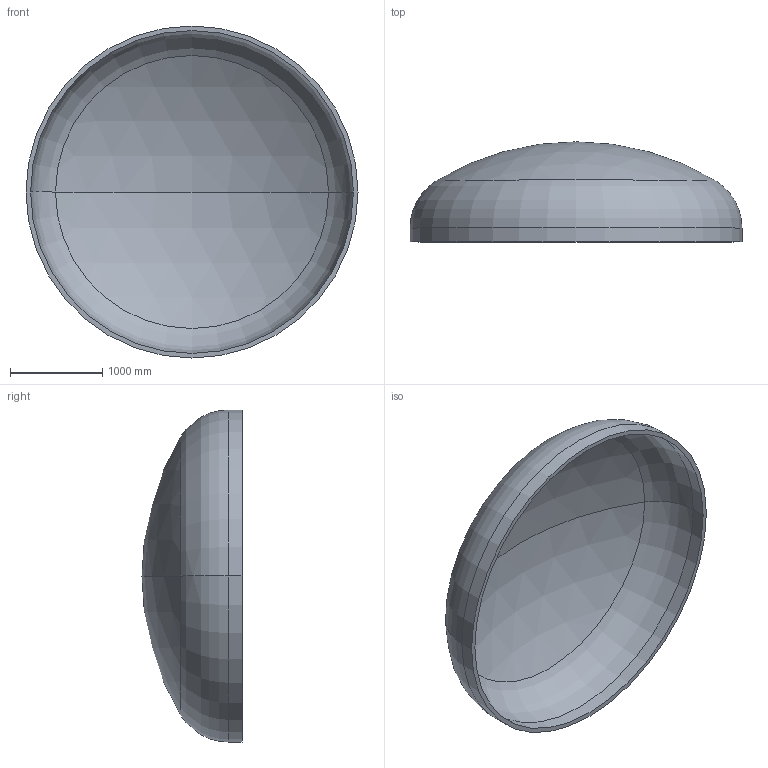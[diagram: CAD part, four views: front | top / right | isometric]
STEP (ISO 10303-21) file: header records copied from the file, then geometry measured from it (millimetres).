
FILE_DESCRIPTION (( 'STEP AP203' ), '1' );
FILE_NAME ('DIN 28013 Korbbogenform_-_Boden DIN 28013 - 3600 x 150 - I - s=50.step', '2016-07-01T20:31:28', ( '' ), ( '' ), 'SwSTEP 2.0', 'SolidWorks 2013', '' );
FILE_SCHEMA (( 'CONFIG_CONTROL_DESIGN' ));
Length unit declared in the file: millimetre
Products named in the file (1): DIN 28013 Korbbogenform_-_Boden DIN 28013 - 3600 x 150 - I - s=50
Bounding box: 3600 x 1085.61 x 3600 mm (x, y, z)
Volume: 775847033.1 mm3; surface area: 31596739.2 mm2
Topology: 1 solids, 1 shells, 13 faces, 24 edges, 14 vertices
Faces by surface type: torus 4, cylinder 4, sphere 4, plane 1
Entity records: 407 total; most frequent: DIRECTION 72, CARTESIAN_POINT 52, ORIENTED_EDGE 48, AXIS2_PLACEMENT_3D 34, EDGE_CURVE 24, CIRCLE 20, VERTEX_POINT 14, EDGE_LOOP 14
